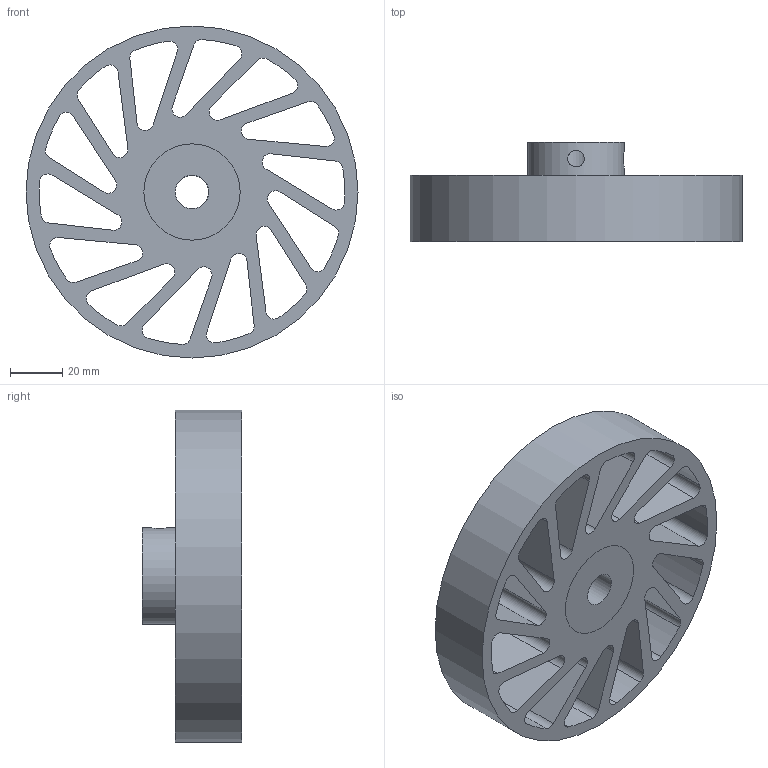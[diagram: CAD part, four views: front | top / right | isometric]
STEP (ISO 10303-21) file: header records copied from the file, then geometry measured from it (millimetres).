
FILE_DESCRIPTION(/* description */ (''),/* implementation_level */ '2;1');
FILE_NAME(/* name */ 'NCW-450-XXX-YYY.stp',/* time_stamp */ '2023-02-02T15:20:55-06:00',/* author */ ('AG'),/* organization */ ('Meridian Laboratory'),/* preprocessor_version */ 'ST-DEVELOPER v18.1',/* originating_system */ 'Autodesk Inventor 2022',/* authorisation */ '');
FILE_SCHEMA (('AUTOMOTIVE_DESIGN { 1 0 10303 214 3 1 1 }'));
Length unit declared in the file: inch
Products named in the file (1): NCW-440
Bounding box: 127 x 38.1 x 127 mm (x, y, z)
Volume: 188329.5 mm3; surface area: 64070.5 mm2
Topology: 2 solids, 2 shells, 94 faces, 276 edges, 186 vertices
Faces by surface type: cylinder 62, plane 32
Full cylindrical faces by diameter (mm): 6.35 x2, 12.725 x1, 36.83 x2, 127 x1
Entity records: 3530 total; most frequent: CARTESIAN_POINT 697, DIRECTION 576, ORIENTED_EDGE 552, EDGE_CURVE 276, AXIS2_PLACEMENT_3D 215, VERTEX_POINT 186, LINE 146, VECTOR 146
